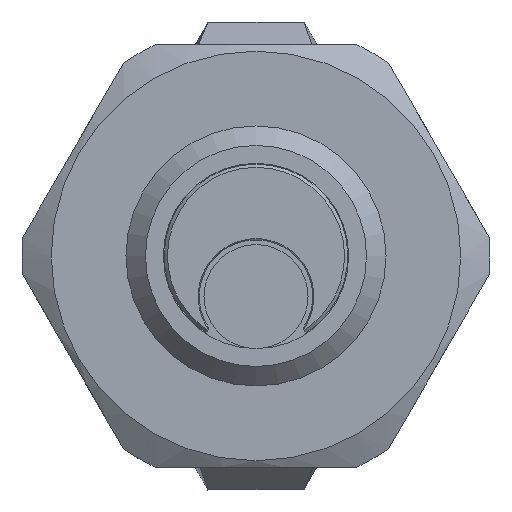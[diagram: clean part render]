
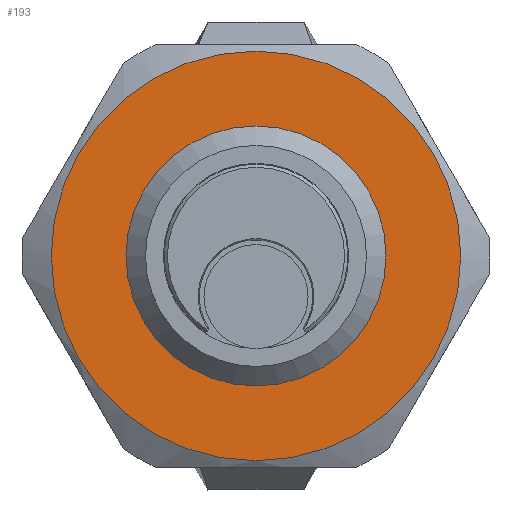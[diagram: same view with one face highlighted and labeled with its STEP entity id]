
A CAD part, left-side view. The second image highlights one B-rep face of the part: STEP entity #193.
In plain terms, the highlighted planar face has unit normal (-1, 0, 0) as drawn and (0, 1, 0) by its records, which use the part's own axes.
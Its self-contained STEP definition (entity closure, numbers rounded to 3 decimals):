
#193 = ADVANCED_FACE( '', ( #248, #249 ), #250, .T. );
#248 = FACE_BOUND( '', #342, .T. );
#249 = FACE_OUTER_BOUND( '', #343, .T. );
#250 = PLANE( '', #344 );
#342 = EDGE_LOOP( '', ( #522 ) );
#343 = EDGE_LOOP( '', ( #523 ) );
#344 = AXIS2_PLACEMENT_3D( '', #524, #525, #526 );
#522 = ORIENTED_EDGE( '', *, *, #700, .T. );
#523 = ORIENTED_EDGE( '', *, *, #674, .F. );
#524 = CARTESIAN_POINT( '', ( 0., 2., 0. ) );
#525 = DIRECTION( '', ( 0., 1., 0. ) );
#526 = DIRECTION( '', ( 0., 0., 1. ) );
#674 = EDGE_CURVE( '', #757, #757, #758, .T. );
#700 = EDGE_CURVE( '', #797, #797, #798, .F. );
#757 = VERTEX_POINT( '', #905 );
#758 = CIRCLE( '', #906, 6.3 );
#797 = VERTEX_POINT( '', #1025 );
#798 = CIRCLE( '', #1026, 3.959 );
#905 = CARTESIAN_POINT( '', ( 0., 2., -6.3 ) );
#906 = AXIS2_PLACEMENT_3D( '', #1129, #1130, #1131 );
#1025 = CARTESIAN_POINT( '', ( 0., 2., 3.959 ) );
#1026 = AXIS2_PLACEMENT_3D( '', #1165, #1166, #1167 );
#1129 = CARTESIAN_POINT( '', ( 0., 2., 0. ) );
#1130 = DIRECTION( '', ( 0., -1., 0. ) );
#1131 = DIRECTION( '', ( 0., 0., -1. ) );
#1165 = CARTESIAN_POINT( '', ( 0., 2., 0. ) );
#1166 = DIRECTION( '', ( 0., 1., 0. ) );
#1167 = DIRECTION( '', ( 0., 0., 1. ) );
